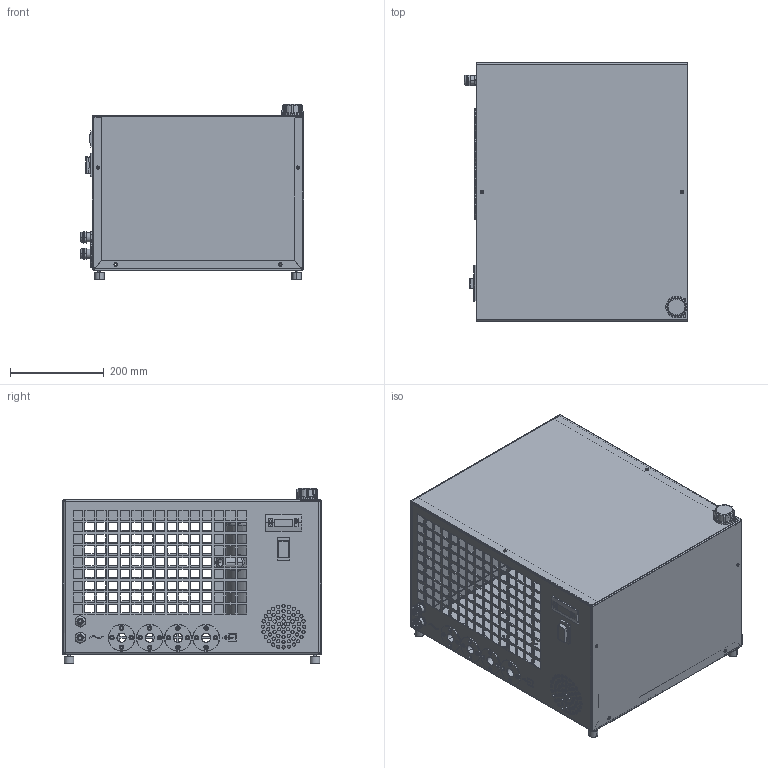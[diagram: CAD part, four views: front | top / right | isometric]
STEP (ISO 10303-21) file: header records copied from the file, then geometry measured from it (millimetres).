
FILE_DESCRIPTION (( 'STEP AP214' ), '1' );
FILE_NAME ('Figurino SCW_LPH12_REV00.STEP', '2020-09-07T12:59:42', ( '' ), ( '' ), 'SwSTEP 2.0', 'SolidWorks 2013', '' );
FILE_SCHEMA (( 'AUTOMOTIVE_DESIGN' ));
Length unit declared in the file: millimetre
Products named in the file (12): TE-EL-00007 - EW_971_230V; pg11_Cable-Gland-1.209.1102.15-Nelco; SE-RP-00026; AN-P1-00008_ANTIVIBRANTE_M6_20x15_PIEDE; ZE-PU-00001_INTERRUTTORE LUMINOSO; Figurino SCW_LPH12_REV00; TAPPO 1P  FEM ; ST-AT-00024_000; VR-DF-B3301_001; VR-DF-A3301_003; pg11 part1_Socket-1.209.1102.15-Nelco; pg11 part2_Nut-PA-Blue-22-22-25-Nelco
Assembly tree (18 placements, depth 3):
  Figurino SCW_LPH12_REV00
    VR-DF-A3301_003
    VR-DF-B3301_001
    TE-EL-00007 - EW_971_230V
    ZE-PU-00001_INTERRUTTORE LUMINOSO
    pg11_Cable-Gland-1.209.1102.15-Nelco  x2
      pg11 part1_Socket-1.209.1102.15-Nelco
      pg11 part2_Nut-PA-Blue-22-22-25-Nelco
    SE-RP-00026
    TAPPO 1P  FEM 
    ST-AT-00024_000  x4
    AN-P1-00008_ANTIVIBRANTE_M6_20x15_PIEDE  x4
Bounding box: 475.5 x 550 x 373 mm (x, y, z)
Volume: 2487325.7 mm3; surface area: 2734906.5 mm2
Topology: 45 solids, 46 shells, 3594 faces, 9468 edges, 6050 vertices
Faces by surface type: plane 2001, cylinder 854, bspline 269, torus 264, cone 206
Entity records: 127394 total; most frequent: CARTESIAN_POINT 41466, ORIENTED_EDGE 17718, DIRECTION 16300, EDGE_CURVE 8859, VECTOR 5796, LINE 5796, VERTEX_POINT 5688, AXIS2_PLACEMENT_3D 5252
